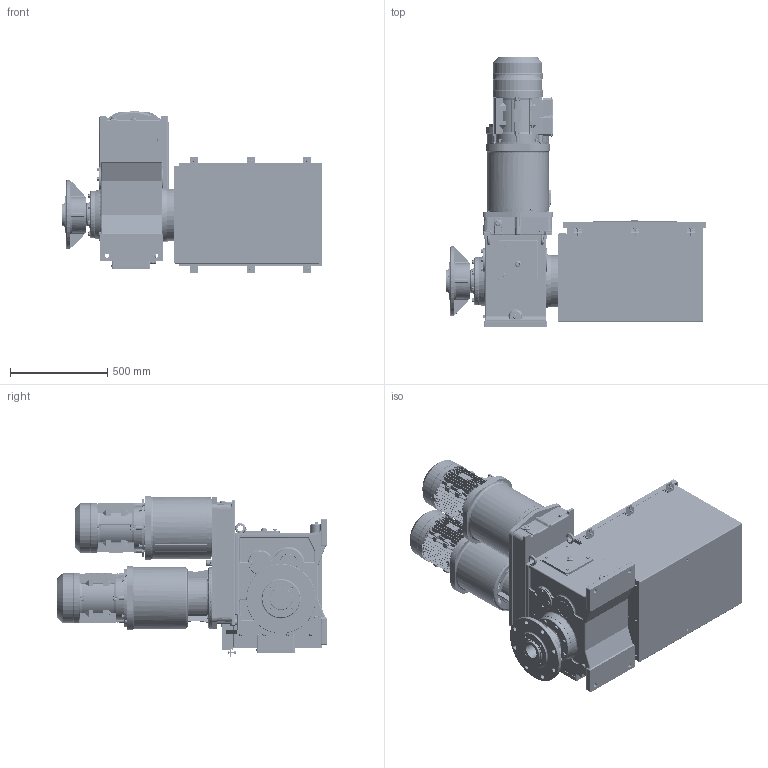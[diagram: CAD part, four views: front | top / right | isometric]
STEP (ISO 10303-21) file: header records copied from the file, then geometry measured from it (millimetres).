
FILE_DESCRIPTION(/* description */ (''),/* implementation_level */ '2;1');
FILE_NAME(/* name */ 'K:\NEMANJA\CABLE REEL\CABLE REEL DA\0700-6\07006007 DACR\STEP\75899.stp',/* time_stamp */ '2017-03-16T12:06:14+01:00',/* author */ ('zeldjo01'),/* organization */ ('Hillmar Industries Ltd.'),/* preprocessor_version */ 'ST-DEVELOPER v16.1',/* originating_system */ 'Autodesk Inventor 2016',/* authorisation */ '');
FILE_SCHEMA (('AUTOMOTIVE_DESIGN { 1 0 10303 214 3 1 1 }'));
Products named in the file (1): 75899
Bounding box: 1332.76 x 1383.71 x 829.01 mm (x, y, z)
Volume: 83796898.8 mm3; surface area: 13695188.6 mm2
Topology: 15 solids, 15 shells, 11433 faces, 30445 edges, 19541 vertices
Faces by surface type: plane 6713, cylinder 2380, cone 1009, bspline 909, torus 330, sphere 92
Full cylindrical faces by diameter (mm): 3 x8, 5 x8, 7 x4, 8 x4, 8.376 x9, 8.731 x1, 9.188 x10, 10 x60, 10.106 x54, 10.38 x6, 10.5 x4, 11 x20, 11.053 x30, 12 x54, 12.5 x6, 13 x37, 13.2 x6, 13.5 x12, 14 x12, 14.3 x4, 15 x22, 15.4 x10, 16.974 x4, 17 x4, 17.2 x30, 17.336 x1, 17.4 x8, 17.475 x1, 18 x6, 18.256 x3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
Entity records: 383143 total; most frequent: CARTESIAN_POINT 99285, ORIENTED_EDGE 57870, DIRECTION 52652, EDGE_CURVE 28924, VERTEX_POINT 19076, AXIS2_PLACEMENT_3D 17724, LINE 17204, VECTOR 17204
